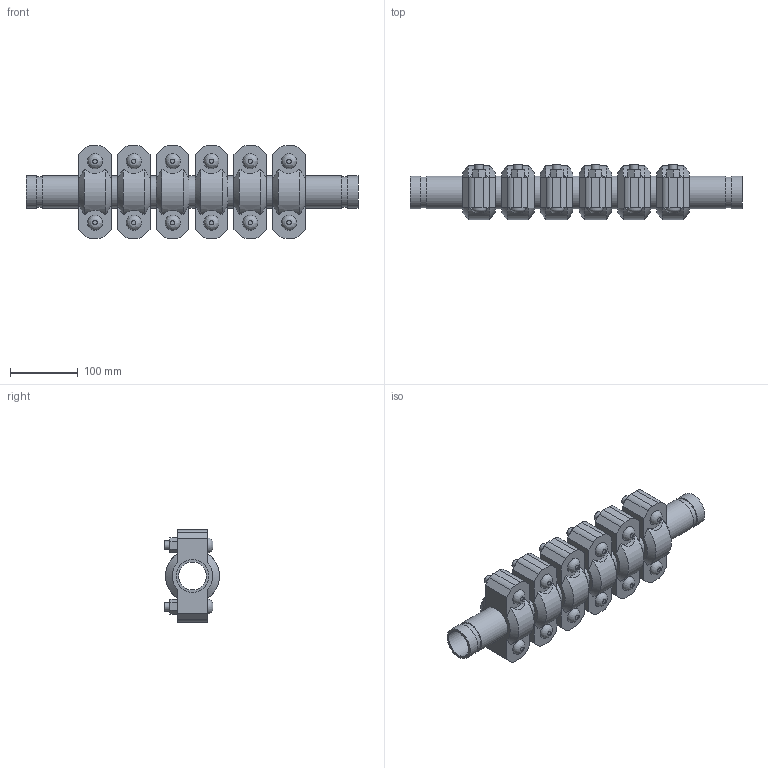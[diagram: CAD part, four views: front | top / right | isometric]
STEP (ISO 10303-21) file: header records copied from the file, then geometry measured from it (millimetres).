
FILE_DESCRIPTION(/* description */ ('VIC EXPANSION JOINT 6 COUPLINGS COMPRESSED STYLE 155 (OGS)','CAx-IF Rec.Pracs.---Representation and Presentation of Product Manufacturing Information (PMI)---4.0---2014-10-13'),/* implementation_level */ '2;1');
FILE_NAME(/* name */ 'C:\Users\kkamble\AppData\Roaming\Autodesk\ApplicationPlugins\Victaulic.Temp\A354\Victaulic_IPS_Expansion Joint_Compressed_6 Couplings_Style 155 (OGS)_1.5 (40).stp',/* time_stamp */ '2021-06-27T00:31:25+02:00',/* author */ ('kkamble'),/* organization */ ('Victaulic'),/* preprocessor_version */ 'ST-DEVELOPER v17.2',/* originating_system */ 'Autodesk Inventor 2019',/* authorisation */ '');
FILE_SCHEMA (('AP242_MANAGED_MODEL_BASED_3D_ENGINEERING_MIM_LF { 1 0 10303 442 1 1 4 }'));
Length unit declared in the file: inch
Products named in the file (4): 155-01.5; Nipple-01.5; Nipple-01.5_1; 077-01.5
Assembly tree (13 placements, depth 2):
  155-01.5
    Nipple-01.5  x2
    Nipple-01.5_1  x5
    077-01.5  x6
Bounding box: 488.95 x 81.03 x 136.65 mm (x, y, z)
Volume: 1805518.4 mm3; surface area: 417812.7 mm2
Topology: 13 solids, 25 shells, 426 faces, 1044 edges, 732 vertices
Faces by surface type: plane 246, cylinder 144, cone 24, bspline 12
Full cylindrical faces by diameter (mm): 12.7 x24, 14.605 x12, 40.894 x7, 45.085 x14, 48.26 x27
Entity records: 2939 total; most frequent: CARTESIAN_POINT 591, DIRECTION 471, ORIENTED_EDGE 398, EDGE_CURVE 199, AXIS2_PLACEMENT_3D 188, VERTEX_POINT 142, EDGE_LOOP 105, LINE 95
